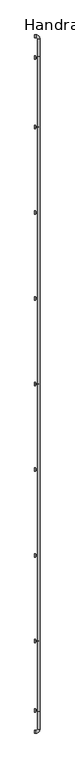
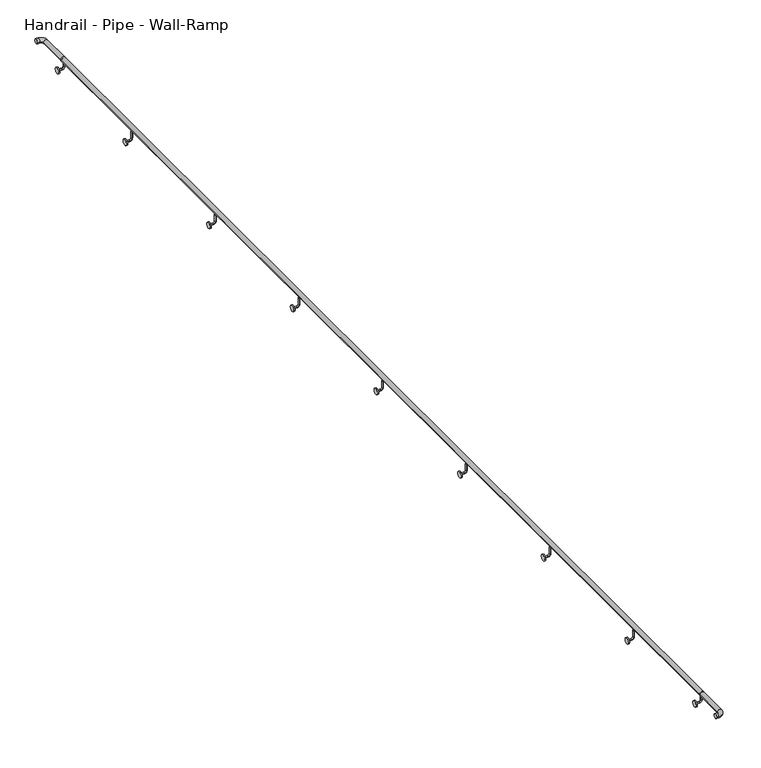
"""IFC4 building model written with IfcOpenShell, lengths in millimetres: railing geometry, Handrail - Pipe - Wall-Ramp."""

from ifc_helpers import new_model, si_unit, point, frame, frame_2d, origin, place, context, project, spatial, circle_curve, ellipse_curve, trimmed, segment, composite_curve, outline, extrude, source, transform, mapped, element, save
from ifc_brep_helpers import plane_surface, cylinder_surface, revolved_surface, advanced_brep


def handrail_pipe_wall_ramp_800e23aa(model_context):
    return source(origin(), model_context, "Body", "SolidModel", [
        extrude(outline(composite_curve([segment(trimmed(circle_curve(frame_2d((895.35, -6063.2478678)), 19.05), [point((895.35, -6044.1978678))], [point((895.35, -6082.2978678))], False, "CARTESIAN"), True, "CONTINUOUS"), segment(trimmed(circle_curve(frame_2d((895.35, -6063.2478678)), 19.05), [point((895.35, -6082.2978678))], [point((895.35, -6044.1978678))], False, "CARTESIAN"), True, "CONTINUOUS")], self_intersect=False)), frame((0.0, -14660.8643828, 0.0), z_axis=(0.0, 1.0, 0.0), x_axis=(0.0, 0.0, 1.0)), (0.0, 0.0, 1.0), 9315.45),
        advanced_brep(
        [(-6063.2478678, -13654.3893828, 857.25), (-6063.2478678, -13667.0893828, 857.25), (-6063.2478678, -13654.3893828, 800.1), (-6063.2478678, -13667.0893828, 800.1), (-6082.2978678, -13667.0893828, 781.05), (-6082.2978678, -13654.3893828, 781.05), (-6110.8728678, -13654.3893828, 781.05), (-6110.8728678, -13667.0893828, 781.05)],
        [
            (0, 1, circle_curve(frame((-6063.2478678, -13660.7393828, 857.25), z_axis=(0.0, 0.0, 1.0), x_axis=(0.0, -1.0, 0.0)), 6.35)),
            (1, 0, circle_curve(frame((-6063.2478678, -13660.7393828, 857.25), z_axis=(0.0, 0.0, 1.0), x_axis=(0.0, -1.0, 0.0)), 6.35)),
            (0, 2),
            (2, 3, circle_curve(frame((-6063.2478678, -13660.7393828, 800.1), z_axis=(0.0, 0.0, 1.0), x_axis=(0.0, -1.0, 0.0)), 6.35)),
            (3, 1),
            (3, 2, circle_curve(frame((-6063.2478678, -13660.7393828, 800.1), z_axis=(0.0, 0.0, 1.0), x_axis=(0.0, -1.0, 0.0)), 6.35)),
            (4, 3, circle_curve(frame((-6082.2978678, -13667.0893828, 800.1), z_axis=(0.0, -1.0, 0.0), x_axis=(1.0, 0.0, 0.0)), 19.05)),
            (2, 5, circle_curve(frame((-6082.2978678, -13654.3893828, 800.1), z_axis=(0.0, 1.0, 0.0), x_axis=(1.0, 0.0, 0.0)), 19.05)),
            (5, 4, circle_curve(frame((-6082.2978678, -13660.7393828, 781.05), z_axis=(1.0, 0.0, 0.0), x_axis=(0.0, -1.0, 0.0)), 6.35)),
            (4, 5, circle_curve(frame((-6082.2978678, -13660.7393828, 781.05), z_axis=(1.0, 0.0, 0.0), x_axis=(0.0, -1.0, 0.0)), 6.35)),
            (6, 7, circle_curve(frame((-6110.8728678, -13660.7393828, 781.05), z_axis=(-1.0, 0.0, 0.0), x_axis=(0.0, -1.0, 0.0)), 6.35)),
            (7, 6, circle_curve(frame((-6110.8728678, -13660.7393828, 781.05), z_axis=(-1.0, 0.0, 0.0), x_axis=(0.0, -1.0, 0.0)), 6.35)),
            (5, 6),
            (7, 4),
        ],
        [
            plane_surface(frame((-6063.2478678, -13667.0893828, 857.25), z_axis=(0.0, 0.0, 1.0), x_axis=(-1.0, 0.0, 0.0))),
            cylinder_surface(frame((-6063.2478678, -13660.7393828, 857.25), z_axis=(0.0, 0.0, 1.0), x_axis=(0.0, -1.0, 0.0)), 6.35),
            revolved_surface(trimmed(ellipse_curve(frame((-6063.2478678, -13660.7393828, 800.1), z_axis=(0.0, 0.0, 1.0), x_axis=(0.0, -1.0, 0.0)), 6.35, 6.35), [point((-6063.2478678, -13654.3893828, 800.1))], [point((-6063.2478678, -13667.0893828, 800.1))], True, "CARTESIAN"), (-6082.2978678, -13660.7393828, 800.1), (0.0, 1.0, 0.0)),
            revolved_surface(trimmed(ellipse_curve(frame((-6063.2478678, -13660.7393828, 800.1), z_axis=(0.0, 0.0, 1.0), x_axis=(0.0, -1.0, 0.0)), 6.35, 6.35), [point((-6063.2478678, -13667.0893828, 800.1))], [point((-6063.2478678, -13654.3893828, 800.1))], True, "CARTESIAN"), (-6082.2978678, -13660.7393828, 800.1), (0.0, 1.0, 0.0)),
            plane_surface(frame((-6110.8728678, -13660.7393828, 774.7), z_axis=(-1.0, 0.0, 0.0), x_axis=(0.0, -1.0, 0.0))),
            cylinder_surface(frame((-6082.2978678, -13660.7393828, 781.05), z_axis=(1.0, 0.0, 0.0), x_axis=(0.0, -1.0, 0.0)), 6.35),
        ],
        [
            (0, [[1, 2]]),
            (1, [[-1, 3, 4, 5]]),
            (1, [[-2, -5, 6, -3]]),
            (2, [[7, -4, 8, 9]]),
            (3, [[-8, -6, -7, 10]]),
            (4, [[11, 12]]),
            (5, [[-9, 13, -12, 14]]),
            (5, [[-10, -14, -11, -13]]),
        ],
    ),
        extrude(outline(composite_curve([segment(trimmed(circle_curve(frame_2d((-13660.7393828, 781.05)), 25.4), [point((-13686.1393828, 781.05))], [point((-13635.3393828, 781.05))], False, "CARTESIAN"), True, "CONTINUOUS"), segment(trimmed(circle_curve(frame_2d((-13660.7393828, 781.05)), 25.4), [point((-13635.3393828, 781.05))], [point((-13686.1393828, 781.05))], False, "CARTESIAN"), True, "CONTINUOUS")], self_intersect=False)), frame((-6120.3978678, 0.0, 0.0), z_axis=(1.0, 0.0, 0.0), x_axis=(0.0, 1.0, 0.0)), (0.0, 0.0, 1.0), 9.525),
        advanced_brep(
        [(-6063.2478678, -12435.1893828, 857.25), (-6063.2478678, -12447.8893828, 857.25), (-6063.2478678, -12435.1893828, 800.1), (-6063.2478678, -12447.8893828, 800.1), (-6082.2978678, -12447.8893828, 781.05), (-6082.2978678, -12435.1893828, 781.05), (-6110.8728678, -12435.1893828, 781.05), (-6110.8728678, -12447.8893828, 781.05)],
        [
            (0, 1, circle_curve(frame((-6063.2478678, -12441.5393828, 857.25), z_axis=(0.0, 0.0, 1.0), x_axis=(0.0, -1.0, 0.0)), 6.35)),
            (1, 0, circle_curve(frame((-6063.2478678, -12441.5393828, 857.25), z_axis=(0.0, 0.0, 1.0), x_axis=(0.0, -1.0, 0.0)), 6.35)),
            (0, 2),
            (2, 3, circle_curve(frame((-6063.2478678, -12441.5393828, 800.1), z_axis=(0.0, 0.0, 1.0), x_axis=(0.0, -1.0, 0.0)), 6.35)),
            (3, 1),
            (3, 2, circle_curve(frame((-6063.2478678, -12441.5393828, 800.1), z_axis=(0.0, 0.0, 1.0), x_axis=(0.0, -1.0, 0.0)), 6.35)),
            (4, 3, circle_curve(frame((-6082.2978678, -12447.8893828, 800.1), z_axis=(0.0, -1.0, 0.0), x_axis=(1.0, 0.0, 0.0)), 19.05)),
            (2, 5, circle_curve(frame((-6082.2978678, -12435.1893828, 800.1), z_axis=(0.0, 1.0, 0.0), x_axis=(1.0, 0.0, 0.0)), 19.05)),
            (5, 4, circle_curve(frame((-6082.2978678, -12441.5393828, 781.05), z_axis=(1.0, 0.0, 0.0), x_axis=(0.0, -1.0, 0.0)), 6.35)),
            (4, 5, circle_curve(frame((-6082.2978678, -12441.5393828, 781.05), z_axis=(1.0, 0.0, 0.0), x_axis=(0.0, -1.0, 0.0)), 6.35)),
            (6, 7, circle_curve(frame((-6110.8728678, -12441.5393828, 781.05), z_axis=(-1.0, 0.0, 0.0), x_axis=(0.0, -1.0, 0.0)), 6.35)),
            (7, 6, circle_curve(frame((-6110.8728678, -12441.5393828, 781.05), z_axis=(-1.0, 0.0, 0.0), x_axis=(0.0, -1.0, 0.0)), 6.35)),
            (5, 6),
            (7, 4),
        ],
        [
            plane_surface(frame((-6063.2478678, -12447.8893828, 857.25), z_axis=(0.0, 0.0, 1.0), x_axis=(-1.0, 0.0, 0.0))),
            cylinder_surface(frame((-6063.2478678, -12441.5393828, 857.25), z_axis=(0.0, 0.0, 1.0), x_axis=(0.0, -1.0, 0.0)), 6.35),
            revolved_surface(trimmed(ellipse_curve(frame((-6063.2478678, -12441.5393828, 800.1), z_axis=(0.0, 0.0, 1.0), x_axis=(0.0, -1.0, 0.0)), 6.35, 6.35), [point((-6063.2478678, -12435.1893828, 800.1))], [point((-6063.2478678, -12447.8893828, 800.1))], True, "CARTESIAN"), (-6082.2978678, -12441.5393828, 800.1), (0.0, 1.0, 0.0)),
            revolved_surface(trimmed(ellipse_curve(frame((-6063.2478678, -12441.5393828, 800.1), z_axis=(0.0, 0.0, 1.0), x_axis=(0.0, -1.0, 0.0)), 6.35, 6.35), [point((-6063.2478678, -12447.8893828, 800.1))], [point((-6063.2478678, -12435.1893828, 800.1))], True, "CARTESIAN"), (-6082.2978678, -12441.5393828, 800.1), (0.0, 1.0, 0.0)),
            plane_surface(frame((-6110.8728678, -12441.5393828, 774.7), z_axis=(-1.0, 0.0, 0.0), x_axis=(0.0, -1.0, 0.0))),
            cylinder_surface(frame((-6082.2978678, -12441.5393828, 781.05), z_axis=(1.0, 0.0, 0.0), x_axis=(0.0, -1.0, 0.0)), 6.35),
        ],
        [
            (0, [[1, 2]]),
            (1, [[-1, 3, 4, 5]]),
            (1, [[-2, -5, 6, -3]]),
            (2, [[7, -4, 8, 9]]),
            (3, [[-8, -6, -7, 10]]),
            (4, [[11, 12]]),
            (5, [[-9, 13, -12, 14]]),
            (5, [[-10, -14, -11, -13]]),
        ],
    ),
        extrude(outline(composite_curve([segment(trimmed(circle_curve(frame_2d((-12441.5393828, 781.05)), 25.4), [point((-12466.9393828, 781.05))], [point((-12416.1393828, 781.05))], False, "CARTESIAN"), True, "CONTINUOUS"), segment(trimmed(circle_curve(frame_2d((-12441.5393828, 781.05)), 25.4), [point((-12416.1393828, 781.05))], [point((-12466.9393828, 781.05))], False, "CARTESIAN"), True, "CONTINUOUS")], self_intersect=False)), frame((-6120.3978678, 0.0, 0.0), z_axis=(1.0, 0.0, 0.0), x_axis=(0.0, 1.0, 0.0)), (0.0, 0.0, 1.0), 9.525),
        advanced_brep(
        [(-6063.2478678, -11215.9893828, 857.25), (-6063.2478678, -11228.6893828, 857.25), (-6063.2478678, -11215.9893828, 800.1), (-6063.2478678, -11228.6893828, 800.1), (-6082.2978678, -11228.6893828, 781.05), (-6082.2978678, -11215.9893828, 781.05), (-6110.8728678, -11215.9893828, 781.05), (-6110.8728678, -11228.6893828, 781.05)],
        [
            (0, 1, circle_curve(frame((-6063.2478678, -11222.3393828, 857.25), z_axis=(0.0, 0.0, 1.0), x_axis=(0.0, -1.0, 0.0)), 6.35)),
            (1, 0, circle_curve(frame((-6063.2478678, -11222.3393828, 857.25), z_axis=(0.0, 0.0, 1.0), x_axis=(0.0, -1.0, 0.0)), 6.35)),
            (0, 2),
            (2, 3, circle_curve(frame((-6063.2478678, -11222.3393828, 800.1), z_axis=(0.0, 0.0, 1.0), x_axis=(0.0, -1.0, 0.0)), 6.35)),
            (3, 1),
            (3, 2, circle_curve(frame((-6063.2478678, -11222.3393828, 800.1), z_axis=(0.0, 0.0, 1.0), x_axis=(0.0, -1.0, 0.0)), 6.35)),
            (4, 3, circle_curve(frame((-6082.2978678, -11228.6893828, 800.1), z_axis=(0.0, -1.0, 0.0), x_axis=(1.0, 0.0, 0.0)), 19.05)),
            (2, 5, circle_curve(frame((-6082.2978678, -11215.9893828, 800.1), z_axis=(0.0, 1.0, 0.0), x_axis=(1.0, 0.0, 0.0)), 19.05)),
            (5, 4, circle_curve(frame((-6082.2978678, -11222.3393828, 781.05), z_axis=(1.0, 0.0, 0.0), x_axis=(0.0, -1.0, 0.0)), 6.35)),
            (4, 5, circle_curve(frame((-6082.2978678, -11222.3393828, 781.05), z_axis=(1.0, 0.0, 0.0), x_axis=(0.0, -1.0, 0.0)), 6.35)),
            (6, 7, circle_curve(frame((-6110.8728678, -11222.3393828, 781.05), z_axis=(-1.0, 0.0, 0.0), x_axis=(0.0, -1.0, 0.0)), 6.35)),
            (7, 6, circle_curve(frame((-6110.8728678, -11222.3393828, 781.05), z_axis=(-1.0, 0.0, 0.0), x_axis=(0.0, -1.0, 0.0)), 6.35)),
            (5, 6),
            (7, 4),
        ],
        [
            plane_surface(frame((-6063.2478678, -11228.6893828, 857.25), z_axis=(0.0, 0.0, 1.0), x_axis=(-1.0, 0.0, 0.0))),
            cylinder_surface(frame((-6063.2478678, -11222.3393828, 857.25), z_axis=(0.0, 0.0, 1.0), x_axis=(0.0, -1.0, 0.0)), 6.35),
            revolved_surface(trimmed(ellipse_curve(frame((-6063.2478678, -11222.3393828, 800.1), z_axis=(0.0, 0.0, 1.0), x_axis=(0.0, -1.0, 0.0)), 6.35, 6.35), [point((-6063.2478678, -11215.9893828, 800.1))], [point((-6063.2478678, -11228.6893828, 800.1))], True, "CARTESIAN"), (-6082.2978678, -11222.3393828, 800.1), (0.0, 1.0, 0.0)),
            revolved_surface(trimmed(ellipse_curve(frame((-6063.2478678, -11222.3393828, 800.1), z_axis=(0.0, 0.0, 1.0), x_axis=(0.0, -1.0, 0.0)), 6.35, 6.35), [point((-6063.2478678, -11228.6893828, 800.1))], [point((-6063.2478678, -11215.9893828, 800.1))], True, "CARTESIAN"), (-6082.2978678, -11222.3393828, 800.1), (0.0, 1.0, 0.0)),
            plane_surface(frame((-6110.8728678, -11222.3393828, 774.7), z_axis=(-1.0, 0.0, 0.0), x_axis=(0.0, -1.0, 0.0))),
            cylinder_surface(frame((-6082.2978678, -11222.3393828, 781.05), z_axis=(1.0, 0.0, 0.0), x_axis=(0.0, -1.0, 0.0)), 6.35),
        ],
        [
            (0, [[1, 2]]),
            (1, [[-1, 3, 4, 5]]),
            (1, [[-2, -5, 6, -3]]),
            (2, [[7, -4, 8, 9]]),
            (3, [[-8, -6, -7, 10]]),
            (4, [[11, 12]]),
            (5, [[-9, 13, -12, 14]]),
            (5, [[-10, -14, -11, -13]]),
        ],
    ),
        extrude(outline(composite_curve([segment(trimmed(circle_curve(frame_2d((-11222.3393828, 781.05)), 25.4), [point((-11247.7393828, 781.05))], [point((-11196.9393828, 781.05))], False, "CARTESIAN"), True, "CONTINUOUS"), segment(trimmed(circle_curve(frame_2d((-11222.3393828, 781.05)), 25.4), [point((-11196.9393828, 781.05))], [point((-11247.7393828, 781.05))], False, "CARTESIAN"), True, "CONTINUOUS")], self_intersect=False)), frame((-6120.3978678, 0.0, 0.0), z_axis=(1.0, 0.0, 0.0), x_axis=(0.0, 1.0, 0.0)), (0.0, 0.0, 1.0), 9.525),
        advanced_brep(
        [(-6063.2478678, -9996.7893828, 857.25), (-6063.2478678, -10009.4893828, 857.25), (-6063.2478678, -9996.7893828, 800.1), (-6063.2478678, -10009.4893828, 800.1), (-6082.2978678, -10009.4893828, 781.05), (-6082.2978678, -9996.7893828, 781.05), (-6110.8728678, -9996.7893828, 781.05), (-6110.8728678, -10009.4893828, 781.05)],
        [
            (0, 1, circle_curve(frame((-6063.2478678, -10003.1393828, 857.25), z_axis=(0.0, 0.0, 1.0), x_axis=(0.0, -1.0, 0.0)), 6.35)),
            (1, 0, circle_curve(frame((-6063.2478678, -10003.1393828, 857.25), z_axis=(0.0, 0.0, 1.0), x_axis=(0.0, -1.0, 0.0)), 6.35)),
            (0, 2),
            (2, 3, circle_curve(frame((-6063.2478678, -10003.1393828, 800.1), z_axis=(0.0, 0.0, 1.0), x_axis=(0.0, -1.0, 0.0)), 6.35)),
            (3, 1),
            (3, 2, circle_curve(frame((-6063.2478678, -10003.1393828, 800.1), z_axis=(0.0, 0.0, 1.0), x_axis=(0.0, -1.0, 0.0)), 6.35)),
            (4, 3, circle_curve(frame((-6082.2978678, -10009.4893828, 800.1), z_axis=(0.0, -1.0, 0.0), x_axis=(1.0, 0.0, 0.0)), 19.05)),
            (2, 5, circle_curve(frame((-6082.2978678, -9996.7893828, 800.1), z_axis=(0.0, 1.0, 0.0), x_axis=(1.0, 0.0, 0.0)), 19.05)),
            (5, 4, circle_curve(frame((-6082.2978678, -10003.1393828, 781.05), z_axis=(1.0, 0.0, 0.0), x_axis=(0.0, -1.0, 0.0)), 6.35)),
            (4, 5, circle_curve(frame((-6082.2978678, -10003.1393828, 781.05), z_axis=(1.0, 0.0, 0.0), x_axis=(0.0, -1.0, 0.0)), 6.35)),
            (6, 7, circle_curve(frame((-6110.8728678, -10003.1393828, 781.05), z_axis=(-1.0, 0.0, 0.0), x_axis=(0.0, -1.0, 0.0)), 6.35)),
            (7, 6, circle_curve(frame((-6110.8728678, -10003.1393828, 781.05), z_axis=(-1.0, 0.0, 0.0), x_axis=(0.0, -1.0, 0.0)), 6.35)),
            (5, 6),
            (7, 4),
        ],
        [
            plane_surface(frame((-6063.2478678, -10009.4893828, 857.25), z_axis=(0.0, 0.0, 1.0), x_axis=(-1.0, 0.0, 0.0))),
            cylinder_surface(frame((-6063.2478678, -10003.1393828, 857.25), z_axis=(0.0, 0.0, 1.0), x_axis=(0.0, -1.0, 0.0)), 6.35),
            revolved_surface(trimmed(ellipse_curve(frame((-6063.2478678, -10003.1393828, 800.1), z_axis=(0.0, 0.0, 1.0), x_axis=(0.0, -1.0, 0.0)), 6.35, 6.35), [point((-6063.2478678, -9996.7893828, 800.1))], [point((-6063.2478678, -10009.4893828, 800.1))], True, "CARTESIAN"), (-6082.2978678, -10003.1393828, 800.1), (0.0, 1.0, 0.0)),
            revolved_surface(trimmed(ellipse_curve(frame((-6063.2478678, -10003.1393828, 800.1), z_axis=(0.0, 0.0, 1.0), x_axis=(0.0, -1.0, 0.0)), 6.35, 6.35), [point((-6063.2478678, -10009.4893828, 800.1))], [point((-6063.2478678, -9996.7893828, 800.1))], True, "CARTESIAN"), (-6082.2978678, -10003.1393828, 800.1), (0.0, 1.0, 0.0)),
            plane_surface(frame((-6110.8728678, -10003.1393828, 774.7), z_axis=(-1.0, 0.0, 0.0), x_axis=(0.0, -1.0, 0.0))),
            cylinder_surface(frame((-6082.2978678, -10003.1393828, 781.05), z_axis=(1.0, 0.0, 0.0), x_axis=(0.0, -1.0, 0.0)), 6.35),
        ],
        [
            (0, [[1, 2]]),
            (1, [[-1, 3, 4, 5]]),
            (1, [[-2, -5, 6, -3]]),
            (2, [[7, -4, 8, 9]]),
            (3, [[-8, -6, -7, 10]]),
            (4, [[11, 12]]),
            (5, [[-9, 13, -12, 14]]),
            (5, [[-10, -14, -11, -13]]),
        ],
    ),
        extrude(outline(composite_curve([segment(trimmed(circle_curve(frame_2d((-10003.1393828, 781.05)), 25.4), [point((-10028.5393828, 781.05))], [point((-9977.7393828, 781.05))], False, "CARTESIAN"), True, "CONTINUOUS"), segment(trimmed(circle_curve(frame_2d((-10003.1393828, 781.05)), 25.4), [point((-9977.7393828, 781.05))], [point((-10028.5393828, 781.05))], False, "CARTESIAN"), True, "CONTINUOUS")], self_intersect=False)), frame((-6120.3978678, 0.0, 0.0), z_axis=(1.0, 0.0, 0.0), x_axis=(0.0, 1.0, 0.0)), (0.0, 0.0, 1.0), 9.525),
        advanced_brep(
        [(-6063.2478678, -8777.5893828, 857.25), (-6063.2478678, -8790.2893828, 857.25), (-6063.2478678, -8777.5893828, 800.1), (-6063.2478678, -8790.2893828, 800.1), (-6082.2978678, -8790.2893828, 781.05), (-6082.2978678, -8777.5893828, 781.05), (-6110.8728678, -8777.5893828, 781.05), (-6110.8728678, -8790.2893828, 781.05)],
        [
            (0, 1, circle_curve(frame((-6063.2478678, -8783.9393828, 857.25), z_axis=(0.0, 0.0, 1.0), x_axis=(0.0, -1.0, 0.0)), 6.35)),
            (1, 0, circle_curve(frame((-6063.2478678, -8783.9393828, 857.25), z_axis=(0.0, 0.0, 1.0), x_axis=(0.0, -1.0, 0.0)), 6.35)),
            (0, 2),
            (2, 3, circle_curve(frame((-6063.2478678, -8783.9393828, 800.1), z_axis=(0.0, 0.0, 1.0), x_axis=(0.0, -1.0, 0.0)), 6.35)),
            (3, 1),
            (3, 2, circle_curve(frame((-6063.2478678, -8783.9393828, 800.1), z_axis=(0.0, 0.0, 1.0), x_axis=(0.0, -1.0, 0.0)), 6.35)),
            (4, 3, circle_curve(frame((-6082.2978678, -8790.2893828, 800.1), z_axis=(0.0, -1.0, 0.0), x_axis=(1.0, 0.0, 0.0)), 19.05)),
            (2, 5, circle_curve(frame((-6082.2978678, -8777.5893828, 800.1), z_axis=(0.0, 1.0, 0.0), x_axis=(1.0, 0.0, 0.0)), 19.05)),
            (5, 4, circle_curve(frame((-6082.2978678, -8783.9393828, 781.05), z_axis=(1.0, 0.0, 0.0), x_axis=(0.0, -1.0, 0.0)), 6.35)),
            (4, 5, circle_curve(frame((-6082.2978678, -8783.9393828, 781.05), z_axis=(1.0, 0.0, 0.0), x_axis=(0.0, -1.0, 0.0)), 6.35)),
            (6, 7, circle_curve(frame((-6110.8728678, -8783.9393828, 781.05), z_axis=(-1.0, 0.0, 0.0), x_axis=(0.0, -1.0, 0.0)), 6.35)),
            (7, 6, circle_curve(frame((-6110.8728678, -8783.9393828, 781.05), z_axis=(-1.0, 0.0, 0.0), x_axis=(0.0, -1.0, 0.0)), 6.35)),
            (5, 6),
            (7, 4),
        ],
        [
            plane_surface(frame((-6063.2478678, -8790.2893828, 857.25), z_axis=(0.0, 0.0, 1.0), x_axis=(-1.0, 0.0, 0.0))),
            cylinder_surface(frame((-6063.2478678, -8783.9393828, 857.25), z_axis=(0.0, 0.0, 1.0), x_axis=(0.0, -1.0, 0.0)), 6.35),
            revolved_surface(trimmed(ellipse_curve(frame((-6063.2478678, -8783.9393828, 800.1), z_axis=(0.0, 0.0, 1.0), x_axis=(0.0, -1.0, 0.0)), 6.35, 6.35), [point((-6063.2478678, -8777.5893828, 800.1))], [point((-6063.2478678, -8790.2893828, 800.1))], True, "CARTESIAN"), (-6082.2978678, -8783.9393828, 800.1), (0.0, 1.0, 0.0)),
            revolved_surface(trimmed(ellipse_curve(frame((-6063.2478678, -8783.9393828, 800.1), z_axis=(0.0, 0.0, 1.0), x_axis=(0.0, -1.0, 0.0)), 6.35, 6.35), [point((-6063.2478678, -8790.2893828, 800.1))], [point((-6063.2478678, -8777.5893828, 800.1))], True, "CARTESIAN"), (-6082.2978678, -8783.9393828, 800.1), (0.0, 1.0, 0.0)),
            plane_surface(frame((-6110.8728678, -8783.9393828, 774.7), z_axis=(-1.0, 0.0, 0.0), x_axis=(0.0, -1.0, 0.0))),
            cylinder_surface(frame((-6082.2978678, -8783.9393828, 781.05), z_axis=(1.0, 0.0, 0.0), x_axis=(0.0, -1.0, 0.0)), 6.35),
        ],
        [
            (0, [[1, 2]]),
            (1, [[-1, 3, 4, 5]]),
            (1, [[-2, -5, 6, -3]]),
            (2, [[7, -4, 8, 9]]),
            (3, [[-8, -6, -7, 10]]),
            (4, [[11, 12]]),
            (5, [[-9, 13, -12, 14]]),
            (5, [[-10, -14, -11, -13]]),
        ],
    ),
        extrude(outline(composite_curve([segment(trimmed(circle_curve(frame_2d((-8783.9393828, 781.05)), 25.4), [point((-8809.3393828, 781.05))], [point((-8758.5393828, 781.05))], False, "CARTESIAN"), True, "CONTINUOUS"), segment(trimmed(circle_curve(frame_2d((-8783.9393828, 781.05)), 25.4), [point((-8758.5393828, 781.05))], [point((-8809.3393828, 781.05))], False, "CARTESIAN"), True, "CONTINUOUS")], self_intersect=False)), frame((-6120.3978678, 0.0, 0.0), z_axis=(1.0, 0.0, 0.0), x_axis=(0.0, 1.0, 0.0)), (0.0, 0.0, 1.0), 9.525),
        advanced_brep(
        [(-6063.2478678, -7558.3893828, 857.25), (-6063.2478678, -7571.0893828, 857.25), (-6063.2478678, -7558.3893828, 800.1), (-6063.2478678, -7571.0893828, 800.1), (-6082.2978678, -7571.0893828, 781.05), (-6082.2978678, -7558.3893828, 781.05), (-6110.8728678, -7558.3893828, 781.05), (-6110.8728678, -7571.0893828, 781.05)],
        [
            (0, 1, circle_curve(frame((-6063.2478678, -7564.7393828, 857.25), z_axis=(0.0, 0.0, 1.0), x_axis=(0.0, -1.0, 0.0)), 6.35)),
            (1, 0, circle_curve(frame((-6063.2478678, -7564.7393828, 857.25), z_axis=(0.0, 0.0, 1.0), x_axis=(0.0, -1.0, 0.0)), 6.35)),
            (0, 2),
            (2, 3, circle_curve(frame((-6063.2478678, -7564.7393828, 800.1), z_axis=(0.0, 0.0, 1.0), x_axis=(0.0, -1.0, 0.0)), 6.35)),
            (3, 1),
            (3, 2, circle_curve(frame((-6063.2478678, -7564.7393828, 800.1), z_axis=(0.0, 0.0, 1.0), x_axis=(0.0, -1.0, 0.0)), 6.35)),
            (4, 3, circle_curve(frame((-6082.2978678, -7571.0893828, 800.1), z_axis=(0.0, -1.0, 0.0), x_axis=(1.0, 0.0, 0.0)), 19.05)),
            (2, 5, circle_curve(frame((-6082.2978678, -7558.3893828, 800.1), z_axis=(0.0, 1.0, 0.0), x_axis=(1.0, 0.0, 0.0)), 19.05)),
            (5, 4, circle_curve(frame((-6082.2978678, -7564.7393828, 781.05), z_axis=(1.0, 0.0, 0.0), x_axis=(0.0, -1.0, 0.0)), 6.35)),
            (4, 5, circle_curve(frame((-6082.2978678, -7564.7393828, 781.05), z_axis=(1.0, 0.0, 0.0), x_axis=(0.0, -1.0, 0.0)), 6.35)),
            (6, 7, circle_curve(frame((-6110.8728678, -7564.7393828, 781.05), z_axis=(-1.0, 0.0, 0.0), x_axis=(0.0, -1.0, 0.0)), 6.35)),
            (7, 6, circle_curve(frame((-6110.8728678, -7564.7393828, 781.05), z_axis=(-1.0, 0.0, 0.0), x_axis=(0.0, -1.0, 0.0)), 6.35)),
            (5, 6),
            (7, 4),
        ],
        [
            plane_surface(frame((-6063.2478678, -7571.0893828, 857.25), z_axis=(0.0, 0.0, 1.0), x_axis=(-1.0, 0.0, 0.0))),
            cylinder_surface(frame((-6063.2478678, -7564.7393828, 857.25), z_axis=(0.0, 0.0, 1.0), x_axis=(0.0, -1.0, 0.0)), 6.35),
            revolved_surface(trimmed(ellipse_curve(frame((-6063.2478678, -7564.7393828, 800.1), z_axis=(0.0, 0.0, 1.0), x_axis=(0.0, -1.0, 0.0)), 6.35, 6.35), [point((-6063.2478678, -7558.3893828, 800.1))], [point((-6063.2478678, -7571.0893828, 800.1))], True, "CARTESIAN"), (-6082.2978678, -7564.7393828, 800.1), (0.0, 1.0, 0.0)),
            revolved_surface(trimmed(ellipse_curve(frame((-6063.2478678, -7564.7393828, 800.1), z_axis=(0.0, 0.0, 1.0), x_axis=(0.0, -1.0, 0.0)), 6.35, 6.35), [point((-6063.2478678, -7571.0893828, 800.1))], [point((-6063.2478678, -7558.3893828, 800.1))], True, "CARTESIAN"), (-6082.2978678, -7564.7393828, 800.1), (0.0, 1.0, 0.0)),
            plane_surface(frame((-6110.8728678, -7564.7393828, 774.7), z_axis=(-1.0, 0.0, 0.0), x_axis=(0.0, -1.0, 0.0))),
            cylinder_surface(frame((-6082.2978678, -7564.7393828, 781.05), z_axis=(1.0, 0.0, 0.0), x_axis=(0.0, -1.0, 0.0)), 6.35),
        ],
        [
            (0, [[1, 2]]),
            (1, [[-1, 3, 4, 5]]),
            (1, [[-2, -5, 6, -3]]),
            (2, [[7, -4, 8, 9]]),
            (3, [[-8, -6, -7, 10]]),
            (4, [[11, 12]]),
            (5, [[-9, 13, -12, 14]]),
            (5, [[-10, -14, -11, -13]]),
        ],
    ),
        extrude(outline(composite_curve([segment(trimmed(circle_curve(frame_2d((-7564.7393828, 781.05)), 25.4), [point((-7590.1393828, 781.05))], [point((-7539.3393828, 781.05))], False, "CARTESIAN"), True, "CONTINUOUS"), segment(trimmed(circle_curve(frame_2d((-7564.7393828, 781.05)), 25.4), [point((-7539.3393828, 781.05))], [point((-7590.1393828, 781.05))], False, "CARTESIAN"), True, "CONTINUOUS")], self_intersect=False)), frame((-6120.3978678, 0.0, 0.0), z_axis=(1.0, 0.0, 0.0), x_axis=(0.0, 1.0, 0.0)), (0.0, 0.0, 1.0), 9.525),
        advanced_brep(
        [(-6063.2478678, -6339.1893828, 857.25), (-6063.2478678, -6351.8893828, 857.25), (-6063.2478678, -6339.1893828, 800.1), (-6063.2478678, -6351.8893828, 800.1), (-6082.2978678, -6351.8893828, 781.05), (-6082.2978678, -6339.1893828, 781.05), (-6110.8728678, -6339.1893828, 781.05), (-6110.8728678, -6351.8893828, 781.05)],
        [
            (0, 1, circle_curve(frame((-6063.2478678, -6345.5393828, 857.25), z_axis=(0.0, 0.0, 1.0), x_axis=(0.0, -1.0, 0.0)), 6.35)),
            (1, 0, circle_curve(frame((-6063.2478678, -6345.5393828, 857.25), z_axis=(0.0, 0.0, 1.0), x_axis=(0.0, -1.0, 0.0)), 6.35)),
            (0, 2),
            (2, 3, circle_curve(frame((-6063.2478678, -6345.5393828, 800.1), z_axis=(0.0, 0.0, 1.0), x_axis=(0.0, -1.0, 0.0)), 6.35)),
            (3, 1),
            (3, 2, circle_curve(frame((-6063.2478678, -6345.5393828, 800.1), z_axis=(0.0, 0.0, 1.0), x_axis=(0.0, -1.0, 0.0)), 6.35)),
            (4, 3, circle_curve(frame((-6082.2978678, -6351.8893828, 800.1), z_axis=(0.0, -1.0, 0.0), x_axis=(1.0, 0.0, 0.0)), 19.05)),
            (2, 5, circle_curve(frame((-6082.2978678, -6339.1893828, 800.1), z_axis=(0.0, 1.0, 0.0), x_axis=(1.0, 0.0, 0.0)), 19.05)),
            (5, 4, circle_curve(frame((-6082.2978678, -6345.5393828, 781.05), z_axis=(1.0, 0.0, 0.0), x_axis=(0.0, -1.0, 0.0)), 6.35)),
            (4, 5, circle_curve(frame((-6082.2978678, -6345.5393828, 781.05), z_axis=(1.0, 0.0, 0.0), x_axis=(0.0, -1.0, 0.0)), 6.35)),
            (6, 7, circle_curve(frame((-6110.8728678, -6345.5393828, 781.05), z_axis=(-1.0, 0.0, 0.0), x_axis=(0.0, -1.0, 0.0)), 6.35)),
            (7, 6, circle_curve(frame((-6110.8728678, -6345.5393828, 781.05), z_axis=(-1.0, 0.0, 0.0), x_axis=(0.0, -1.0, 0.0)), 6.35)),
            (5, 6),
            (7, 4),
        ],
        [
            plane_surface(frame((-6063.2478678, -6351.8893828, 857.25), z_axis=(0.0, 0.0, 1.0), x_axis=(-1.0, 0.0, 0.0))),
            cylinder_surface(frame((-6063.2478678, -6345.5393828, 857.25), z_axis=(0.0, 0.0, 1.0), x_axis=(0.0, -1.0, 0.0)), 6.35),
            revolved_surface(trimmed(ellipse_curve(frame((-6063.2478678, -6345.5393828, 800.1), z_axis=(0.0, 0.0, 1.0), x_axis=(0.0, -1.0, 0.0)), 6.35, 6.35), [point((-6063.2478678, -6339.1893828, 800.1))], [point((-6063.2478678, -6351.8893828, 800.1))], True, "CARTESIAN"), (-6082.2978678, -6345.5393828, 800.1), (0.0, 1.0, 0.0)),
            revolved_surface(trimmed(ellipse_curve(frame((-6063.2478678, -6345.5393828, 800.1), z_axis=(0.0, 0.0, 1.0), x_axis=(0.0, -1.0, 0.0)), 6.35, 6.35), [point((-6063.2478678, -6351.8893828, 800.1))], [point((-6063.2478678, -6339.1893828, 800.1))], True, "CARTESIAN"), (-6082.2978678, -6345.5393828, 800.1), (0.0, 1.0, 0.0)),
            plane_surface(frame((-6110.8728678, -6345.5393828, 774.7), z_axis=(-1.0, 0.0, 0.0), x_axis=(0.0, -1.0, 0.0))),
            cylinder_surface(frame((-6082.2978678, -6345.5393828, 781.05), z_axis=(1.0, 0.0, 0.0), x_axis=(0.0, -1.0, 0.0)), 6.35),
        ],
        [
            (0, [[1, 2]]),
            (1, [[-1, 3, 4, 5]]),
            (1, [[-2, -5, 6, -3]]),
            (2, [[7, -4, 8, 9]]),
            (3, [[-8, -6, -7, 10]]),
            (4, [[11, 12]]),
            (5, [[-9, 13, -12, 14]]),
            (5, [[-10, -14, -11, -13]]),
        ],
    ),
        extrude(outline(composite_curve([segment(trimmed(circle_curve(frame_2d((-6345.5393828, 781.05)), 25.4), [point((-6370.9393828, 781.05))], [point((-6320.1393828, 781.05))], False, "CARTESIAN"), True, "CONTINUOUS"), segment(trimmed(circle_curve(frame_2d((-6345.5393828, 781.05)), 25.4), [point((-6320.1393828, 781.05))], [point((-6370.9393828, 781.05))], False, "CARTESIAN"), True, "CONTINUOUS")], self_intersect=False)), frame((-6120.3978678, 0.0, 0.0), z_axis=(1.0, 0.0, 0.0), x_axis=(0.0, 1.0, 0.0)), (0.0, 0.0, 1.0), 9.525),
        advanced_brep(
        [(-6082.2978678, -14648.1643828, 895.35), (-6044.1978678, -14648.1643828, 895.35), (-6082.2978678, -14914.8643828, 895.35), (-6044.1978678, -14914.8643828, 895.35), (-6101.3478678, -14972.0143828, 895.35), (-6101.3478678, -14933.9143828, 895.35), (-6120.3978678, -14933.9143828, 895.35), (-6120.3978678, -14972.0143828, 895.35)],
        [
            (0, 1, circle_curve(frame((-6063.2478678, -14648.1643828, 895.35), z_axis=(0.0, 1.0, 0.0), x_axis=(1.0, 0.0, 0.0)), 19.05)),
            (1, 0, circle_curve(frame((-6063.2478678, -14648.1643828, 895.35), z_axis=(0.0, 1.0, 0.0), x_axis=(1.0, 0.0, 0.0)), 19.05)),
            (0, 2),
            (2, 3, circle_curve(frame((-6063.2478678, -14914.8643828, 895.35), z_axis=(0.0, 1.0, 0.0), x_axis=(1.0, 0.0, 0.0)), 19.05)),
            (3, 1),
            (3, 2, circle_curve(frame((-6063.2478678, -14914.8643828, 895.35), z_axis=(0.0, 1.0, 0.0), x_axis=(1.0, 0.0, 0.0)), 19.05)),
            (4, 3, circle_curve(frame((-6101.3478678, -14914.8643828, 895.35), z_axis=(0.0, 0.0, 1.0), x_axis=(1.0, 0.0, 0.0)), 57.15)),
            (2, 5, circle_curve(frame((-6101.3478678, -14914.8643828, 895.35), z_axis=(0.0, 0.0, -1.0), x_axis=(1.0, 0.0, 0.0)), 19.05)),
            (5, 4, circle_curve(frame((-6101.3478678, -14952.9643828, 895.35), z_axis=(1.0, 0.0, 0.0), x_axis=(0.0, -1.0, 0.0)), 19.05)),
            (4, 5, circle_curve(frame((-6101.3478678, -14952.9643828, 895.35), z_axis=(1.0, 0.0, 0.0), x_axis=(0.0, -1.0, 0.0)), 19.05)),
            (6, 7, circle_curve(frame((-6120.3978678, -14952.9643828, 895.35), z_axis=(-1.0, 0.0, 0.0), x_axis=(0.0, -1.0, 0.0)), 19.05)),
            (7, 6, circle_curve(frame((-6120.3978678, -14952.9643828, 895.35), z_axis=(-1.0, 0.0, 0.0), x_axis=(0.0, -1.0, 0.0)), 19.05)),
            (5, 6),
            (7, 4),
        ],
        [
            plane_surface(frame((-6063.2478678, -14648.1643828, 895.35), z_axis=(0.0, 1.0, 0.0), x_axis=(0.0, 0.0, 1.0))),
            cylinder_surface(frame((-6063.2478678, -14648.1643828, 895.35), z_axis=(0.0, 1.0, 0.0), x_axis=(1.0, 0.0, 0.0)), 19.05),
            revolved_surface(trimmed(ellipse_curve(frame((-6063.2478678, -14914.8643828, 895.35), z_axis=(0.0, 1.0, 0.0), x_axis=(1.0, 0.0, 0.0)), 19.05, 19.05), [point((-6082.2978678, -14914.8643828, 895.35))], [point((-6044.1978678, -14914.8643828, 895.35))], True, "CARTESIAN"), (-6101.3478678, -14914.8643828, 895.35), (0.0, 0.0, -1.0)),
            revolved_surface(trimmed(ellipse_curve(frame((-6063.2478678, -14914.8643828, 895.35), z_axis=(0.0, 1.0, 0.0), x_axis=(1.0, 0.0, 0.0)), 19.05, 19.05), [point((-6044.1978678, -14914.8643828, 895.35))], [point((-6082.2978678, -14914.8643828, 895.35))], True, "CARTESIAN"), (-6101.3478678, -14914.8643828, 895.35), (0.0, 0.0, -1.0)),
            plane_surface(frame((-6120.3978678, -14952.9643828, 895.35), z_axis=(-1.0, 0.0, 0.0), x_axis=(0.0, 0.0, 1.0))),
            cylinder_surface(frame((-6101.3478678, -14952.9643828, 895.35), z_axis=(1.0, 0.0, 0.0), x_axis=(0.0, -1.0, 0.0)), 19.05),
        ],
        [
            (0, [[1, 2]]),
            (1, [[-1, 3, 4, 5]]),
            (1, [[-2, -5, 6, -3]]),
            (2, [[7, -4, 8, 9]]),
            (3, [[-8, -6, -7, 10]]),
            (4, [[11, 12]]),
            (5, [[-9, 13, -12, 14]]),
            (5, [[-10, -14, -11, -13]]),
        ],
    ),
        advanced_brep(
        [(-6110.8728678, -14648.1643828, 812.8), (-6110.8728678, -14648.1643828, 825.5), (-6082.2978678, -14648.1643828, 812.8), (-6082.2978678, -14648.1643828, 825.5), (-6069.5978678, -14648.1643828, 838.2), (-6056.8978678, -14648.1643828, 838.2), (-6056.8978678, -14648.1643828, 895.35), (-6069.5978678, -14648.1643828, 895.35)],
        [
            (0, 1, circle_curve(frame((-6110.8728678, -14648.1643828, 819.15), z_axis=(-1.0, 0.0, 0.0), x_axis=(0.0, 0.0, 1.0)), 6.35)),
            (1, 0, circle_curve(frame((-6110.8728678, -14648.1643828, 819.15), z_axis=(-1.0, 0.0, 0.0), x_axis=(0.0, 0.0, 1.0)), 6.35)),
            (0, 2),
            (2, 3, circle_curve(frame((-6082.2978678, -14648.1643828, 819.15), z_axis=(-1.0, 0.0, 0.0), x_axis=(0.0, 0.0, 1.0)), 6.35)),
            (3, 1),
            (3, 2, circle_curve(frame((-6082.2978678, -14648.1643828, 819.15), z_axis=(-1.0, 0.0, 0.0), x_axis=(0.0, 0.0, 1.0)), 6.35)),
            (4, 3, circle_curve(frame((-6082.2978678, -14648.1643828, 838.2), z_axis=(0.0, 1.0, 0.0), x_axis=(0.0, 0.0, -1.0)), 12.7)),
            (2, 5, circle_curve(frame((-6082.2978678, -14648.1643828, 838.2), z_axis=(0.0, -1.0, 0.0), x_axis=(0.0, 0.0, -1.0)), 25.4)),
            (5, 4, circle_curve(frame((-6063.2478678, -14648.1643828, 838.2), z_axis=(0.0, 0.0, -1.0), x_axis=(-1.0, 0.0, 0.0)), 6.35)),
            (4, 5, circle_curve(frame((-6063.2478678, -14648.1643828, 838.2), z_axis=(0.0, 0.0, -1.0), x_axis=(-1.0, 0.0, 0.0)), 6.35)),
            (6, 7, circle_curve(frame((-6063.2478678, -14648.1643828, 895.35), z_axis=(0.0, 0.0, 1.0), x_axis=(-1.0, 0.0, 0.0)), 6.35)),
            (7, 6, circle_curve(frame((-6063.2478678, -14648.1643828, 895.35), z_axis=(0.0, 0.0, 1.0), x_axis=(-1.0, 0.0, 0.0)), 6.35)),
            (5, 6),
            (7, 4),
        ],
        [
            plane_surface(frame((-6110.8728678, -14648.1643828, 819.15), z_axis=(-1.0, 0.0, 0.0), x_axis=(0.0, -1.0, 0.0))),
            cylinder_surface(frame((-6110.8728678, -14648.1643828, 819.15), z_axis=(-1.0, 0.0, 0.0), x_axis=(0.0, 0.0, 1.0)), 6.35),
            revolved_surface(trimmed(ellipse_curve(frame((-6082.2978678, -14648.1643828, 819.15), z_axis=(-1.0, 0.0, 0.0), x_axis=(0.0, 0.0, 1.0)), 6.35, 6.35), [point((-6082.2978678, -14648.1643828, 812.8))], [point((-6082.2978678, -14648.1643828, 825.5))], True, "CARTESIAN"), (-6082.2978678, -14648.1643828, 838.2), (0.0, -1.0, 0.0)),
            revolved_surface(trimmed(ellipse_curve(frame((-6082.2978678, -14648.1643828, 819.15), z_axis=(-1.0, 0.0, 0.0), x_axis=(0.0, 0.0, 1.0)), 6.35, 6.35), [point((-6082.2978678, -14648.1643828, 825.5))], [point((-6082.2978678, -14648.1643828, 812.8))], True, "CARTESIAN"), (-6082.2978678, -14648.1643828, 838.2), (0.0, -1.0, 0.0)),
            plane_surface(frame((-6063.2478678, -14648.1643828, 895.35), z_axis=(0.0, 0.0, 1.0), x_axis=(0.0, -1.0, 0.0))),
            cylinder_surface(frame((-6063.2478678, -14648.1643828, 838.2), z_axis=(0.0, 0.0, -1.0), x_axis=(-1.0, 0.0, 0.0)), 6.35),
        ],
        [
            (0, [[1, 2]]),
            (1, [[-1, 3, 4, 5]]),
            (1, [[-2, -5, 6, -3]]),
            (2, [[7, -4, 8, 9]]),
            (3, [[-8, -6, -7, 10]]),
            (4, [[11, 12]]),
            (5, [[-9, 13, -12, 14]]),
            (5, [[-10, -14, -11, -13]]),
        ],
    ),
        extrude(outline(composite_curve([segment(trimmed(circle_curve(frame_2d((-14648.1643828, 819.15)), 25.4), [point((-14673.5643828, 819.15))], [point((-14622.7643828, 819.15))], False, "CARTESIAN"), True, "CONTINUOUS"), segment(trimmed(circle_curve(frame_2d((-14648.1643828, 819.15)), 25.4), [point((-14622.7643828, 819.15))], [point((-14673.5643828, 819.15))], False, "CARTESIAN"), True, "CONTINUOUS")], self_intersect=False)), frame((-6120.3978678, 0.0, 0.0), z_axis=(1.0, 0.0, 0.0), x_axis=(0.0, 1.0, 0.0)), (0.0, 0.0, 1.0), 9.525),
        advanced_brep(
        [(-6120.3978678, -5072.3643828, 895.35), (-6120.3978678, -5034.2643828, 895.35), (-6101.3478678, -5072.3643828, 895.35), (-6101.3478678, -5034.2643828, 895.35), (-6044.1978678, -5091.4143828, 895.35), (-6082.2978678, -5091.4143828, 895.35), (-6082.2978678, -5358.1143828, 895.35), (-6044.1978678, -5358.1143828, 895.35)],
        [
            (0, 1, circle_curve(frame((-6120.3978678, -5053.3143828, 895.35), z_axis=(-1.0, 0.0, 0.0), x_axis=(0.0, 1.0, 0.0)), 19.05)),
            (1, 0, circle_curve(frame((-6120.3978678, -5053.3143828, 895.35), z_axis=(-1.0, 0.0, 0.0), x_axis=(0.0, 1.0, 0.0)), 19.05)),
            (0, 2),
            (2, 3, circle_curve(frame((-6101.3478678, -5053.3143828, 895.35), z_axis=(-1.0, 0.0, 0.0), x_axis=(0.0, 1.0, 0.0)), 19.05)),
            (3, 1),
            (3, 2, circle_curve(frame((-6101.3478678, -5053.3143828, 895.35), z_axis=(-1.0, 0.0, 0.0), x_axis=(0.0, 1.0, 0.0)), 19.05)),
            (4, 3, circle_curve(frame((-6101.3478678, -5091.4143828, 895.35), z_axis=(0.0, 0.0, 1.0), x_axis=(0.0, 1.0, 0.0)), 57.15)),
            (2, 5, circle_curve(frame((-6101.3478678, -5091.4143828, 895.35), z_axis=(0.0, 0.0, -1.0), x_axis=(0.0, 1.0, 0.0)), 19.05)),
            (5, 4, circle_curve(frame((-6063.2478678, -5091.4143828, 895.35), z_axis=(0.0, 1.0, 0.0), x_axis=(1.0, 0.0, 0.0)), 19.05)),
            (4, 5, circle_curve(frame((-6063.2478678, -5091.4143828, 895.35), z_axis=(0.0, 1.0, 0.0), x_axis=(1.0, 0.0, 0.0)), 19.05)),
            (6, 7, circle_curve(frame((-6063.2478678, -5358.1143828, 895.35), z_axis=(0.0, -1.0, 0.0), x_axis=(1.0, 0.0, 0.0)), 19.05)),
            (7, 6, circle_curve(frame((-6063.2478678, -5358.1143828, 895.35), z_axis=(0.0, -1.0, 0.0), x_axis=(1.0, 0.0, 0.0)), 19.05)),
            (5, 6),
            (7, 4),
        ],
        [
            plane_surface(frame((-6120.3978678, -5053.3143828, 895.35), z_axis=(-1.0, 0.0, 0.0), x_axis=(0.0, 0.0, 1.0))),
            cylinder_surface(frame((-6120.3978678, -5053.3143828, 895.35), z_axis=(-1.0, 0.0, 0.0), x_axis=(0.0, 1.0, 0.0)), 19.05),
            revolved_surface(trimmed(ellipse_curve(frame((-6101.3478678, -5053.3143828, 895.35), z_axis=(-1.0, 0.0, 0.0), x_axis=(0.0, 1.0, 0.0)), 19.05, 19.05), [point((-6101.3478678, -5072.3643828, 895.35))], [point((-6101.3478678, -5034.2643828, 895.35))], True, "CARTESIAN"), (-6101.3478678, -5091.4143828, 895.35), (0.0, 0.0, -1.0)),
            revolved_surface(trimmed(ellipse_curve(frame((-6101.3478678, -5053.3143828, 895.35), z_axis=(-1.0, 0.0, 0.0), x_axis=(0.0, 1.0, 0.0)), 19.05, 19.05), [point((-6101.3478678, -5034.2643828, 895.35))], [point((-6101.3478678, -5072.3643828, 895.35))], True, "CARTESIAN"), (-6101.3478678, -5091.4143828, 895.35), (0.0, 0.0, -1.0)),
            plane_surface(frame((-6063.2478678, -5358.1143828, 895.35), z_axis=(0.0, -1.0, 0.0), x_axis=(0.0, 0.0, 1.0))),
            cylinder_surface(frame((-6063.2478678, -5091.4143828, 895.35), z_axis=(0.0, 1.0, 0.0), x_axis=(1.0, 0.0, 0.0)), 19.05),
        ],
        [
            (0, [[1, 2]]),
            (1, [[-1, 3, 4, 5]]),
            (1, [[-2, -5, 6, -3]]),
            (2, [[7, -4, 8, 9]]),
            (3, [[-8, -6, -7, 10]]),
            (4, [[11, 12]]),
            (5, [[-9, 13, -12, 14]]),
            (5, [[-10, -14, -11, -13]]),
        ],
    ),
        advanced_brep(
        [(-6110.8728678, -5358.1143828, 812.8), (-6110.8728678, -5358.1143828, 825.5), (-6082.2978678, -5358.1143828, 812.8), (-6082.2978678, -5358.1143828, 825.5), (-6069.5978678, -5358.1143828, 838.2), (-6056.8978678, -5358.1143828, 838.2), (-6056.8978678, -5358.1143828, 895.35), (-6069.5978678, -5358.1143828, 895.35)],
        [
            (0, 1, circle_curve(frame((-6110.8728678, -5358.1143828, 819.15), z_axis=(-1.0, 0.0, 0.0), x_axis=(0.0, 0.0, 1.0)), 6.35)),
            (1, 0, circle_curve(frame((-6110.8728678, -5358.1143828, 819.15), z_axis=(-1.0, 0.0, 0.0), x_axis=(0.0, 0.0, 1.0)), 6.35)),
            (0, 2),
            (2, 3, circle_curve(frame((-6082.2978678, -5358.1143828, 819.15), z_axis=(-1.0, 0.0, 0.0), x_axis=(0.0, 0.0, 1.0)), 6.35)),
            (3, 1),
            (3, 2, circle_curve(frame((-6082.2978678, -5358.1143828, 819.15), z_axis=(-1.0, 0.0, 0.0), x_axis=(0.0, 0.0, 1.0)), 6.35)),
            (4, 3, circle_curve(frame((-6082.2978678, -5358.1143828, 838.2), z_axis=(0.0, 1.0, 0.0), x_axis=(0.0, 0.0, -1.0)), 12.7)),
            (2, 5, circle_curve(frame((-6082.2978678, -5358.1143828, 838.2), z_axis=(0.0, -1.0, 0.0), x_axis=(0.0, 0.0, -1.0)), 25.4)),
            (5, 4, circle_curve(frame((-6063.2478678, -5358.1143828, 838.2), z_axis=(0.0, 0.0, -1.0), x_axis=(-1.0, 0.0, 0.0)), 6.35)),
            (4, 5, circle_curve(frame((-6063.2478678, -5358.1143828, 838.2), z_axis=(0.0, 0.0, -1.0), x_axis=(-1.0, 0.0, 0.0)), 6.35)),
            (6, 7, circle_curve(frame((-6063.2478678, -5358.1143828, 895.35), z_axis=(0.0, 0.0, 1.0), x_axis=(-1.0, 0.0, 0.0)), 6.35)),
            (7, 6, circle_curve(frame((-6063.2478678, -5358.1143828, 895.35), z_axis=(0.0, 0.0, 1.0), x_axis=(-1.0, 0.0, 0.0)), 6.35)),
            (5, 6),
            (7, 4),
        ],
        [
            plane_surface(frame((-6110.8728678, -5358.1143828, 819.15), z_axis=(-1.0, 0.0, 0.0), x_axis=(0.0, -1.0, 0.0))),
            cylinder_surface(frame((-6110.8728678, -5358.1143828, 819.15), z_axis=(-1.0, 0.0, 0.0), x_axis=(0.0, 0.0, 1.0)), 6.35),
            revolved_surface(trimmed(ellipse_curve(frame((-6082.2978678, -5358.1143828, 819.15), z_axis=(-1.0, 0.0, 0.0), x_axis=(0.0, 0.0, 1.0)), 6.35, 6.35), [point((-6082.2978678, -5358.1143828, 812.8))], [point((-6082.2978678, -5358.1143828, 825.5))], True, "CARTESIAN"), (-6082.2978678, -5358.1143828, 838.2), (0.0, -1.0, 0.0)),
            revolved_surface(trimmed(ellipse_curve(frame((-6082.2978678, -5358.1143828, 819.15), z_axis=(-1.0, 0.0, 0.0), x_axis=(0.0, 0.0, 1.0)), 6.35, 6.35), [point((-6082.2978678, -5358.1143828, 825.5))], [point((-6082.2978678, -5358.1143828, 812.8))], True, "CARTESIAN"), (-6082.2978678, -5358.1143828, 838.2), (0.0, -1.0, 0.0)),
            plane_surface(frame((-6063.2478678, -5358.1143828, 895.35), z_axis=(0.0, 0.0, 1.0), x_axis=(0.0, -1.0, 0.0))),
            cylinder_surface(frame((-6063.2478678, -5358.1143828, 838.2), z_axis=(0.0, 0.0, -1.0), x_axis=(-1.0, 0.0, 0.0)), 6.35),
        ],
        [
            (0, [[1, 2]]),
            (1, [[-1, 3, 4, 5]]),
            (1, [[-2, -5, 6, -3]]),
            (2, [[7, -4, 8, 9]]),
            (3, [[-8, -6, -7, 10]]),
            (4, [[11, 12]]),
            (5, [[-9, 13, -12, 14]]),
            (5, [[-10, -14, -11, -13]]),
        ],
    ),
        extrude(outline(composite_curve([segment(trimmed(circle_curve(frame_2d((-5358.1143828, 819.15)), 25.4), [point((-5383.5143828, 819.15))], [point((-5332.7143828, 819.15))], False, "CARTESIAN"), True, "CONTINUOUS"), segment(trimmed(circle_curve(frame_2d((-5358.1143828, 819.15)), 25.4), [point((-5332.7143828, 819.15))], [point((-5383.5143828, 819.15))], False, "CARTESIAN"), True, "CONTINUOUS")], self_intersect=False)), frame((-6120.3978678, 0.0, 0.0), z_axis=(1.0, 0.0, 0.0), x_axis=(0.0, 1.0, 0.0)), (0.0, 0.0, 1.0), 9.525),
    ])


if __name__ == "__main__":
    model = new_model("IFC4")
    model_context = context("Model", 3, world=origin())
    ifc_project = project(units=[si_unit("LENGTHUNIT", "METRE", prefix="MILLI")], contexts=[model_context])
    site = spatial("IfcSite", under=ifc_project)
    building = spatial("IfcBuilding", under=site)
    placement = place(None, origin())
    handrail_pipe_wall_ramp_shape = handrail_pipe_wall_ramp_800e23aa(model_context)
    element("IfcRailing", 1, ObjectType="Handrail - Pipe - Wall-Ramp", at=placement, inside=building, context=model_context, shape_type="MappedRepresentation", body=[
        mapped(handrail_pipe_wall_ramp_shape, transform((0.0, 0.0, 0.0), x_axis=(1.0, 0.0, 0.0), y_axis=(0.0, 1.0, 0.0), z_axis=(0.0, 0.0, 1.0))),
    ])
    save(model, "model.ifc")
